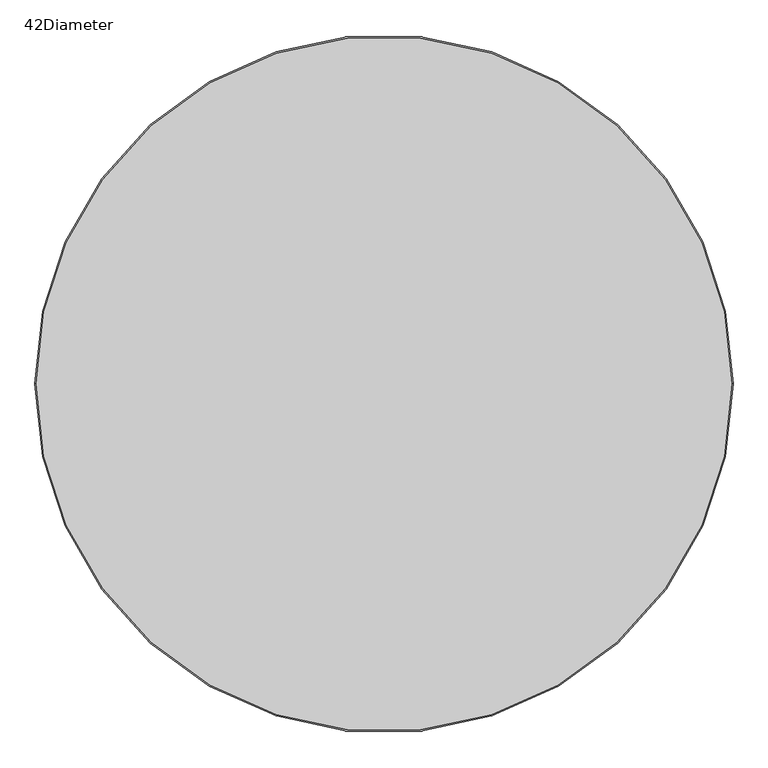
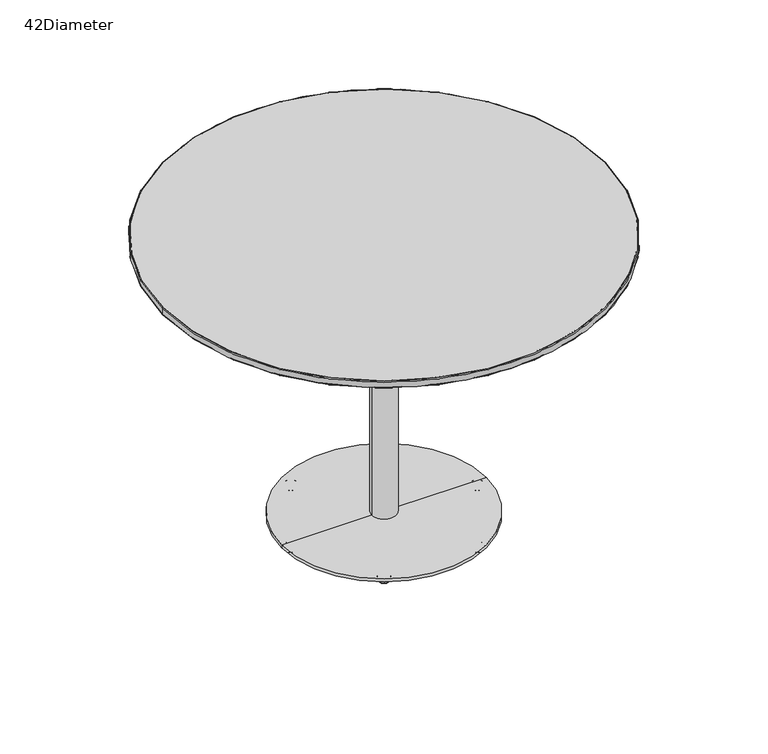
"""IFC4 building model written with IfcOpenShell, lengths in millimetres: furniture geometry, Coalesse_AM_Table_Conference_Montara650_WorkHeight_Round : 42Diameter."""

from ifc_helpers import new_model, si_unit, point, frame, origin, origin_with_axes, origin_2d, place, context, project, spatial, polyline, circle_curve, ellipse_curve, trimmed, segment, composite_curve, outline, extrude, source, transform, mapped, element, save
from ifc_brep_helpers import plane_surface, cylinder_surface, revolved_surface, advanced_brep


def furniture_42diameter_4c75da65(model_context):
    return source(origin(), model_context, "Body", "SolidModel", [
        advanced_brep(
        [(-112.4946772, 194.8464965, 0.0), (-117.6867095, 203.8393602, 0.0), (-107.302645, 185.8536329, 0.0), (-118.0731448, 204.5086859, 0.5718943), (-106.9162096, 185.1843072, 0.5718943), (-119.6988534, 207.3244957, 11.2068005), (-105.290501, 182.3684973, 11.2068005), (-119.4053894, 206.8162011, 11.9999882), (-105.5839651, 182.8767919, 11.9999882), (-112.4946772, 194.8464965, 11.9999882)],
        [
            (0, 1),
            (1, 2, circle_curve(frame((-112.4946772, 194.8464965, 0.0), z_axis=(0.0, 0.0, -1.0), x_axis=(-0.5000000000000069, 0.8660254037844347, 0.0)), 10.3840645)),
            (2, 0),
            (2, 1, circle_curve(frame((-112.4946772, 194.8464965, 0.0), z_axis=(0.0, 0.0, -1.0), x_axis=(-0.5000000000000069, 0.8660254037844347, 0.0)), 10.3840645)),
            (1, 3, circle_curve(frame((-117.6867095, 203.8393602, 0.8081846), z_axis=(0.8660254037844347, 0.5000000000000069, 0.0), x_axis=(-0.5000000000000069, 0.8660254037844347, 0.0)), 0.8081846)),
            (3, 4, circle_curve(frame((-112.4946772, 194.8464965, 0.5718943), z_axis=(0.0, 0.0, -1.0), x_axis=(-0.5000000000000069, 0.8660254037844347, 0.0)), 11.1569353)),
            (4, 2, circle_curve(frame((-107.302645, 185.8536329, 0.8081846), z_axis=(0.866025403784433, 0.5000000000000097, 0.0), x_axis=(0.5000000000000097, -0.866025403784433, 0.0)), 0.8081846)),
            (4, 3, circle_curve(frame((-112.4946772, 194.8464965, 0.5718943), z_axis=(0.0, 0.0, -1.0), x_axis=(-0.5000000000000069, 0.8660254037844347, 0.0)), 11.1569353)),
            (3, 5),
            (5, 6, circle_curve(frame((-112.4946772, 194.8464965, 11.2068005), z_axis=(0.0, 0.0, -1.0), x_axis=(-0.5000000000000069, 0.8660254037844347, 0.0)), 14.4083524)),
            (6, 4),
            (6, 5, circle_curve(frame((-112.4946772, 194.8464965, 11.2068005), z_axis=(0.0, 0.0, -1.0), x_axis=(-0.5000000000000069, 0.8660254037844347, 0.0)), 14.4083524)),
            (5, 7, circle_curve(frame((-119.4053894, 206.8162011, 11.3862424), z_axis=(0.8660254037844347, 0.5000000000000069, 0.0), x_axis=(-0.5000000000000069, 0.8660254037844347, 0.0)), 0.6137458)),
            (7, 8, circle_curve(frame((-112.4946772, 194.8464965, 11.9999882), z_axis=(0.0, 0.0, -1.0), x_axis=(-0.5000000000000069, 0.8660254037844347, 0.0)), 13.8214243)),
            (8, 6, circle_curve(frame((-105.5839651, 182.8767919, 11.3862424), z_axis=(0.866025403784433, 0.5000000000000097, 0.0), x_axis=(0.5000000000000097, -0.866025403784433, 0.0)), 0.6137458)),
            (8, 7, circle_curve(frame((-112.4946772, 194.8464965, 11.9999882), z_axis=(0.0, 0.0, -1.0), x_axis=(-0.5000000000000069, 0.8660254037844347, 0.0)), 13.8214243)),
            (7, 9),
            (9, 8),
        ],
        [
            plane_surface(frame((-112.4946772, 194.8464965, 0.0), z_axis=(0.0, 0.0, -1.0), x_axis=(-0.5000000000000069, 0.8660254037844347, 0.0))),
            revolved_surface(trimmed(ellipse_curve(frame((-117.6867095, 203.8393602, 0.8081846), z_axis=(-0.8660254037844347, -0.5000000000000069, 0.0), x_axis=(-0.5000000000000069, 0.8660254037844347, 0.0)), 0.8081846, 0.8081846), [point((-118.0731448, 204.5086859, 0.5718943))], [point((-117.6867095, 203.8393602, 0.0))], True, "CARTESIAN"), (-112.4946772, 194.8464965, 12.2086845), (0.0, 0.0, -1.0)),
            revolved_surface(polyline([(-119.6988534, 207.3244957, 11.2068005), (-118.0731448, 204.5086859, 0.5718943)]), (-112.4946772, 194.8464965, 12.2086845), (0.0, 0.0, -1.0)),
            revolved_surface(trimmed(ellipse_curve(frame((-119.4053894, 206.8162011, 11.3862424), z_axis=(-0.8660254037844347, -0.5000000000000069, 0.0), x_axis=(-0.5000000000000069, 0.8660254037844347, 0.0)), 0.6137458, 0.6137458), [point((-119.4053894, 206.8162011, 11.9999882))], [point((-119.6988534, 207.3244957, 11.2068005))], True, "CARTESIAN"), (-112.4946772, 194.8464965, 12.2086845), (0.0, 0.0, -1.0)),
            plane_surface(frame((-112.4946772, 194.8464965, 11.9999882), z_axis=(0.0, 0.0, 1.0), x_axis=(-0.5000000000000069, 0.8660254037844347, 0.0))),
        ],
        [
            (0, [[1, 2, 3]]),
            (0, [[-3, 4, -1]]),
            (1, [[-2, 5, 6, 7]]),
            (1, [[-4, -7, 8, -5]]),
            (2, [[-6, 9, 10, 11]]),
            (2, [[-8, -11, 12, -9]]),
            (3, [[-10, 13, 14, 15]]),
            (3, [[-12, -15, 16, -13]]),
            (4, [[-14, 17, 18]]),
            (4, [[-16, -18, -17]]),
        ],
    ),
        advanced_brep(
        [(107.302645, -185.8536329, 0.0), (117.6867095, -203.8393602, 0.0), (112.4946772, -194.8464965, 0.0), (106.9162096, -185.1843072, 0.5718943), (118.0731448, -204.5086859, 0.5718943), (105.290501, -182.3684973, 11.2068005), (119.6988534, -207.3244957, 11.2068005), (105.5839651, -182.8767919, 11.9999882), (119.4053894, -206.8162011, 11.9999882), (112.4946772, -194.8464965, 11.9999882)],
        [
            (0, 1, circle_curve(frame((112.4946772, -194.8464965, 0.0), z_axis=(0.0, 0.0, -1.0), x_axis=(0.5000000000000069, -0.8660254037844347, 0.0)), 10.3840645)),
            (1, 2),
            (2, 0),
            (1, 0, circle_curve(frame((112.4946772, -194.8464965, 0.0), z_axis=(0.0, 0.0, -1.0), x_axis=(0.5000000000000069, -0.8660254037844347, 0.0)), 10.3840645)),
            (3, 4, circle_curve(frame((112.4946772, -194.8464965, 0.5718943), z_axis=(0.0, 0.0, -1.0), x_axis=(0.5000000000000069, -0.8660254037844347, 0.0)), 11.1569353)),
            (4, 1, circle_curve(frame((117.6867095, -203.8393602, 0.8081846), z_axis=(0.8660254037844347, 0.5000000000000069, 0.0), x_axis=(0.5000000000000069, -0.8660254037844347, 0.0)), 0.8081846)),
            (0, 3, circle_curve(frame((107.302645, -185.8536329, 0.8081846), z_axis=(0.8660254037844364, 0.5000000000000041, 0.0), x_axis=(-0.5000000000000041, 0.8660254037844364, 0.0)), 0.8081846)),
            (4, 3, circle_curve(frame((112.4946772, -194.8464965, 0.5718943), z_axis=(0.0, 0.0, -1.0), x_axis=(0.5000000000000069, -0.8660254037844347, 0.0)), 11.1569353)),
            (5, 6, circle_curve(frame((112.4946772, -194.8464965, 11.2068005), z_axis=(0.0, 0.0, -1.0), x_axis=(0.5000000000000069, -0.8660254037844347, 0.0)), 14.4083524)),
            (6, 4),
            (3, 5),
            (6, 5, circle_curve(frame((112.4946772, -194.8464965, 11.2068005), z_axis=(0.0, 0.0, -1.0), x_axis=(0.5000000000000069, -0.8660254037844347, 0.0)), 14.4083524)),
            (7, 8, circle_curve(frame((112.4946772, -194.8464965, 11.9999882), z_axis=(0.0, 0.0, -1.0), x_axis=(0.5000000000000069, -0.8660254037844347, 0.0)), 13.8214243)),
            (8, 6, circle_curve(frame((119.4053894, -206.8162011, 11.3862424), z_axis=(0.8660254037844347, 0.5000000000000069, 0.0), x_axis=(0.5000000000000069, -0.8660254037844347, 0.0)), 0.6137458)),
            (5, 7, circle_curve(frame((105.5839651, -182.8767919, 11.3862424), z_axis=(0.8660254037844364, 0.5000000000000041, 0.0), x_axis=(-0.5000000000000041, 0.8660254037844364, 0.0)), 0.6137458)),
            (8, 7, circle_curve(frame((112.4946772, -194.8464965, 11.9999882), z_axis=(0.0, 0.0, -1.0), x_axis=(0.5000000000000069, -0.8660254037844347, 0.0)), 13.8214243)),
            (9, 8),
            (7, 9),
        ],
        [
            plane_surface(frame((112.4946772, -194.8464965, 0.0), z_axis=(0.0, 0.0, -1.0), x_axis=(0.5000000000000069, -0.8660254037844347, 0.0))),
            revolved_surface(trimmed(ellipse_curve(frame((117.6867095, -203.8393602, 0.8081846), z_axis=(-0.8660254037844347, -0.5000000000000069, 0.0), x_axis=(0.5000000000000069, -0.8660254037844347, 0.0)), 0.8081846, 0.8081846), [point((117.6867095, -203.8393602, 0.0))], [point((118.0731448, -204.5086859, 0.5718943))], True, "CARTESIAN"), (112.4946772, -194.8464965, 12.2086845), (0.0, 0.0, 1.0)),
            revolved_surface(polyline([(118.0731448, -204.5086859, 0.5718943), (119.6988534, -207.3244957, 11.2068005)]), (112.4946772, -194.8464965, 12.2086845), (0.0, 0.0, 1.0)),
            revolved_surface(trimmed(ellipse_curve(frame((119.4053894, -206.8162011, 11.3862424), z_axis=(-0.8660254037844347, -0.5000000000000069, 0.0), x_axis=(0.5000000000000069, -0.8660254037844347, 0.0)), 0.6137458, 0.6137458), [point((119.6988534, -207.3244957, 11.2068005))], [point((119.4053894, -206.8162011, 11.9999882))], True, "CARTESIAN"), (112.4946772, -194.8464965, 12.2086845), (0.0, 0.0, 1.0)),
            plane_surface(frame((112.4946772, -194.8464965, 11.9999882), z_axis=(0.0, 0.0, 1.0), x_axis=(0.5000000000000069, -0.8660254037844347, 0.0))),
        ],
        [
            (0, [[1, 2, 3]]),
            (0, [[4, -3, -2]]),
            (1, [[5, 6, -1, 7]]),
            (1, [[8, -7, -4, -6]]),
            (2, [[9, 10, -5, 11]]),
            (2, [[12, -11, -8, -10]]),
            (3, [[13, 14, -9, 15]]),
            (3, [[16, -15, -12, -14]]),
            (4, [[17, -13, 18]]),
            (4, [[-18, -16, -17]]),
        ],
    ),
        advanced_brep(
        [(107.302645, 185.8536329, 0.0), (117.6867095, 203.8393602, 0.0), (112.4946772, 194.8464965, 0.0), (106.9162096, 185.1843072, 0.5718943), (118.0731448, 204.5086859, 0.5718943), (105.290501, 182.3684973, 11.2068005), (119.6988534, 207.3244957, 11.2068005), (105.5839651, 182.8767919, 11.9999882), (119.4053894, 206.8162011, 11.9999882), (112.4946772, 194.8464965, 11.9999882)],
        [
            (0, 1, circle_curve(frame((112.4946772, 194.8464965, 0.0), z_axis=(0.0, 0.0, -1.0), x_axis=(0.5000000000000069, 0.8660254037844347, 0.0)), 10.3840645)),
            (1, 2),
            (2, 0),
            (1, 0, circle_curve(frame((112.4946772, 194.8464965, 0.0), z_axis=(0.0, 0.0, -1.0), x_axis=(0.5000000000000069, 0.8660254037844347, 0.0)), 10.3840645)),
            (3, 4, circle_curve(frame((112.4946772, 194.8464965, 0.5718943), z_axis=(0.0, 0.0, -1.0), x_axis=(0.5000000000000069, 0.8660254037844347, 0.0)), 11.1569353)),
            (4, 1, circle_curve(frame((117.6867095, 203.8393602, 0.8081846), z_axis=(-0.8660254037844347, 0.5000000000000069, 0.0), x_axis=(0.5000000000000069, 0.8660254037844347, 0.0)), 0.8081846)),
            (0, 3, circle_curve(frame((107.302645, 185.8536329, 0.8081846), z_axis=(-0.866025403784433, 0.5000000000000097, 0.0), x_axis=(-0.5000000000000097, -0.866025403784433, 0.0)), 0.8081846)),
            (4, 3, circle_curve(frame((112.4946772, 194.8464965, 0.5718943), z_axis=(0.0, 0.0, -1.0), x_axis=(0.5000000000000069, 0.8660254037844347, 0.0)), 11.1569353)),
            (5, 6, circle_curve(frame((112.4946772, 194.8464965, 11.2068005), z_axis=(0.0, 0.0, -1.0), x_axis=(0.5000000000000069, 0.8660254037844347, 0.0)), 14.4083524)),
            (6, 4),
            (3, 5),
            (6, 5, circle_curve(frame((112.4946772, 194.8464965, 11.2068005), z_axis=(0.0, 0.0, -1.0), x_axis=(0.5000000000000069, 0.8660254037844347, 0.0)), 14.4083524)),
            (7, 8, circle_curve(frame((112.4946772, 194.8464965, 11.9999882), z_axis=(0.0, 0.0, -1.0), x_axis=(0.5000000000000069, 0.8660254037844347, 0.0)), 13.8214243)),
            (8, 6, circle_curve(frame((119.4053894, 206.8162011, 11.3862424), z_axis=(-0.8660254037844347, 0.5000000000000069, 0.0), x_axis=(0.5000000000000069, 0.8660254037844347, 0.0)), 0.6137458)),
            (5, 7, circle_curve(frame((105.5839651, 182.8767919, 11.3862424), z_axis=(-0.866025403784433, 0.5000000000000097, 0.0), x_axis=(-0.5000000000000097, -0.866025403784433, 0.0)), 0.6137458)),
            (8, 7, circle_curve(frame((112.4946772, 194.8464965, 11.9999882), z_axis=(0.0, 0.0, -1.0), x_axis=(0.5000000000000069, 0.8660254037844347, 0.0)), 13.8214243)),
            (9, 8),
            (7, 9),
        ],
        [
            plane_surface(frame((112.4946772, 194.8464965, 0.0), z_axis=(0.0, 0.0, -1.0), x_axis=(0.5000000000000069, 0.8660254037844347, 0.0))),
            revolved_surface(trimmed(ellipse_curve(frame((117.6867095, 203.8393602, 0.8081846), z_axis=(0.8660254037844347, -0.5000000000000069, 0.0), x_axis=(0.5000000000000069, 0.8660254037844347, 0.0)), 0.8081846, 0.8081846), [point((117.6867095, 203.8393602, 0.0))], [point((118.0731448, 204.5086859, 0.5718943))], True, "CARTESIAN"), (112.4946772, 194.8464965, 12.2086845), (0.0, 0.0, 1.0)),
            revolved_surface(polyline([(118.0731448, 204.5086859, 0.5718943), (119.6988534, 207.3244957, 11.2068005)]), (112.4946772, 194.8464965, 12.2086845), (0.0, 0.0, 1.0)),
            revolved_surface(trimmed(ellipse_curve(frame((119.4053894, 206.8162011, 11.3862424), z_axis=(0.8660254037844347, -0.5000000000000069, 0.0), x_axis=(0.5000000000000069, 0.8660254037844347, 0.0)), 0.6137458, 0.6137458), [point((119.6988534, 207.3244957, 11.2068005))], [point((119.4053894, 206.8162011, 11.9999882))], True, "CARTESIAN"), (112.4946772, 194.8464965, 12.2086845), (0.0, 0.0, 1.0)),
            plane_surface(frame((112.4946772, 194.8464965, 11.9999882), z_axis=(0.0, 0.0, 1.0), x_axis=(0.5000000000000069, 0.8660254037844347, 0.0))),
        ],
        [
            (0, [[1, 2, 3]]),
            (0, [[4, -3, -2]]),
            (1, [[5, 6, -1, 7]]),
            (1, [[8, -7, -4, -6]]),
            (2, [[9, 10, -5, 11]]),
            (2, [[12, -11, -8, -10]]),
            (3, [[13, 14, -9, 15]]),
            (3, [[16, -15, -12, -14]]),
            (4, [[17, -13, 18]]),
            (4, [[-18, -16, -17]]),
        ],
    ),
        advanced_brep(
        [(-112.4946772, -194.8464965, 0.0), (-117.6867095, -203.8393602, 0.0), (-107.302645, -185.8536329, 0.0), (-118.0731448, -204.5086859, 0.5718943), (-106.9162096, -185.1843072, 0.5718943), (-119.6988534, -207.3244957, 11.2068005), (-105.290501, -182.3684973, 11.2068005), (-119.4053894, -206.8162011, 11.9999882), (-105.5839651, -182.8767919, 11.9999882), (-112.4946772, -194.8464965, 11.9999882)],
        [
            (0, 1),
            (1, 2, circle_curve(frame((-112.4946772, -194.8464965, 0.0), z_axis=(0.0, 0.0, -1.0), x_axis=(-0.5000000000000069, -0.8660254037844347, 0.0)), 10.3840645)),
            (2, 0),
            (2, 1, circle_curve(frame((-112.4946772, -194.8464965, 0.0), z_axis=(0.0, 0.0, -1.0), x_axis=(-0.5000000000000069, -0.8660254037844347, 0.0)), 10.3840645)),
            (1, 3, circle_curve(frame((-117.6867095, -203.8393602, 0.8081846), z_axis=(-0.8660254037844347, 0.5000000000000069, 0.0), x_axis=(-0.5000000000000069, -0.8660254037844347, 0.0)), 0.8081846)),
            (3, 4, circle_curve(frame((-112.4946772, -194.8464965, 0.5718943), z_axis=(0.0, 0.0, -1.0), x_axis=(-0.5000000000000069, -0.8660254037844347, 0.0)), 11.1569353)),
            (4, 2, circle_curve(frame((-107.302645, -185.8536329, 0.8081846), z_axis=(-0.8660254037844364, 0.5000000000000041, 0.0), x_axis=(0.5000000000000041, 0.8660254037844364, 0.0)), 0.8081846)),
            (4, 3, circle_curve(frame((-112.4946772, -194.8464965, 0.5718943), z_axis=(0.0, 0.0, -1.0), x_axis=(-0.5000000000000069, -0.8660254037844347, 0.0)), 11.1569353)),
            (3, 5),
            (5, 6, circle_curve(frame((-112.4946772, -194.8464965, 11.2068005), z_axis=(0.0, 0.0, -1.0), x_axis=(-0.5000000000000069, -0.8660254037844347, 0.0)), 14.4083524)),
            (6, 4),
            (6, 5, circle_curve(frame((-112.4946772, -194.8464965, 11.2068005), z_axis=(0.0, 0.0, -1.0), x_axis=(-0.5000000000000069, -0.8660254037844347, 0.0)), 14.4083524)),
            (5, 7, circle_curve(frame((-119.4053894, -206.8162011, 11.3862424), z_axis=(-0.8660254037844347, 0.5000000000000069, 0.0), x_axis=(-0.5000000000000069, -0.8660254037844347, 0.0)), 0.6137458)),
            (7, 8, circle_curve(frame((-112.4946772, -194.8464965, 11.9999882), z_axis=(0.0, 0.0, -1.0), x_axis=(-0.5000000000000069, -0.8660254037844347, 0.0)), 13.8214243)),
            (8, 6, circle_curve(frame((-105.5839651, -182.8767919, 11.3862424), z_axis=(-0.8660254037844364, 0.5000000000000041, 0.0), x_axis=(0.5000000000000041, 0.8660254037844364, 0.0)), 0.6137458)),
            (8, 7, circle_curve(frame((-112.4946772, -194.8464965, 11.9999882), z_axis=(0.0, 0.0, -1.0), x_axis=(-0.5000000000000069, -0.8660254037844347, 0.0)), 13.8214243)),
            (7, 9),
            (9, 8),
        ],
        [
            plane_surface(frame((-112.4946772, -194.8464965, 0.0), z_axis=(0.0, 0.0, -1.0), x_axis=(-0.5000000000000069, -0.8660254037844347, 0.0))),
            revolved_surface(trimmed(ellipse_curve(frame((-117.6867095, -203.8393602, 0.8081846), z_axis=(0.8660254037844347, -0.5000000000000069, 0.0), x_axis=(-0.5000000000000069, -0.8660254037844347, 0.0)), 0.8081846, 0.8081846), [point((-118.0731448, -204.5086859, 0.5718943))], [point((-117.6867095, -203.8393602, 0.0))], True, "CARTESIAN"), (-112.4946772, -194.8464965, 12.2086845), (0.0, 0.0, -1.0)),
            revolved_surface(polyline([(-119.6988534, -207.3244957, 11.2068005), (-118.0731448, -204.5086859, 0.5718943)]), (-112.4946772, -194.8464965, 12.2086845), (0.0, 0.0, -1.0)),
            revolved_surface(trimmed(ellipse_curve(frame((-119.4053894, -206.8162011, 11.3862424), z_axis=(0.8660254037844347, -0.5000000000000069, 0.0), x_axis=(-0.5000000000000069, -0.8660254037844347, 0.0)), 0.6137458, 0.6137458), [point((-119.4053894, -206.8162011, 11.9999882))], [point((-119.6988534, -207.3244957, 11.2068005))], True, "CARTESIAN"), (-112.4946772, -194.8464965, 12.2086845), (0.0, 0.0, -1.0)),
            plane_surface(frame((-112.4946772, -194.8464965, 11.9999882), z_axis=(0.0, 0.0, 1.0), x_axis=(-0.5000000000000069, -0.8660254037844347, 0.0))),
        ],
        [
            (0, [[1, 2, 3]]),
            (0, [[-3, 4, -1]]),
            (1, [[-2, 5, 6, 7]]),
            (1, [[-4, -7, 8, -5]]),
            (2, [[-6, 9, 10, 11]]),
            (2, [[-8, -11, 12, -9]]),
            (3, [[-10, 13, 14, 15]]),
            (3, [[-12, -15, 16, -13]]),
            (4, [[-14, 17, 18]]),
            (4, [[-16, -18, -17]]),
        ],
    ),
        advanced_brep(
        [(214.6052899, 0.0, 0.0), (235.3734189, 0.0, 0.0), (224.9893544, 0.0, 0.0), (213.8324192, 0.0, 0.5718943), (236.1462897, 0.0, 0.5718943), (210.5810021, 0.0, 11.2068005), (239.3977068, 0.0, 11.2068005), (211.1679301, 0.0, 11.9999882), (238.8107788, 0.0, 11.9999882), (224.9893544, 0.0, 11.9999882)],
        [
            (0, 1, circle_curve(frame((224.9893544, 0.0, 0.0), z_axis=(0.0, 0.0, -1.0), x_axis=(1.0, 0.0, 0.0)), 10.3840645)),
            (1, 2),
            (2, 0),
            (1, 0, circle_curve(frame((224.9893544, 0.0, 0.0), z_axis=(0.0, 0.0, -1.0), x_axis=(1.0, 0.0, 0.0)), 10.3840645)),
            (3, 4, circle_curve(frame((224.9893544, 0.0, 0.5718943), z_axis=(0.0, 0.0, -1.0), x_axis=(1.0, 0.0, 0.0)), 11.1569353)),
            (4, 1, circle_curve(frame((235.3734189, 0.0, 0.8081846), z_axis=(0.0, 1.0, 0.0), x_axis=(1.0, 0.0, 0.0)), 0.8081846)),
            (0, 3, circle_curve(frame((214.6052899, 0.0, 0.8081846), z_axis=(0.0, 1.0, 0.0), x_axis=(-1.0, 0.0, 0.0)), 0.8081846)),
            (4, 3, circle_curve(frame((224.9893544, 0.0, 0.5718943), z_axis=(0.0, 0.0, -1.0), x_axis=(1.0, 0.0, 0.0)), 11.1569353)),
            (5, 6, circle_curve(frame((224.9893544, 0.0, 11.2068005), z_axis=(0.0, 0.0, -1.0), x_axis=(1.0, 0.0, 0.0)), 14.4083524)),
            (6, 4),
            (3, 5),
            (6, 5, circle_curve(frame((224.9893544, 0.0, 11.2068005), z_axis=(0.0, 0.0, -1.0), x_axis=(1.0, 0.0, 0.0)), 14.4083524)),
            (7, 8, circle_curve(frame((224.9893544, 0.0, 11.9999882), z_axis=(0.0, 0.0, -1.0), x_axis=(1.0, 0.0, 0.0)), 13.8214243)),
            (8, 6, circle_curve(frame((238.8107788, 0.0, 11.3862424), z_axis=(0.0, 1.0, 0.0), x_axis=(1.0, 0.0, 0.0)), 0.6137458)),
            (5, 7, circle_curve(frame((211.1679301, 0.0, 11.3862424), z_axis=(0.0, 1.0, 0.0), x_axis=(-1.0, 0.0, 0.0)), 0.6137458)),
            (8, 7, circle_curve(frame((224.9893544, 0.0, 11.9999882), z_axis=(0.0, 0.0, -1.0), x_axis=(1.0, 0.0, 0.0)), 13.8214243)),
            (9, 8),
            (7, 9),
        ],
        [
            plane_surface(frame((224.9893544, 0.0, 0.0), z_axis=(0.0, 0.0, -1.0), x_axis=(1.0, 0.0, 0.0))),
            revolved_surface(trimmed(ellipse_curve(frame((235.3734189, 0.0, 0.8081846), z_axis=(0.0, -1.0, 0.0), x_axis=(1.0, 0.0, 0.0)), 0.8081846, 0.8081846), [point((235.3734189, 0.0, 0.0))], [point((236.1462897, 0.0, 0.5718943))], True, "CARTESIAN"), (224.9893544, 0.0, 12.2086845), (0.0, 0.0, 1.0)),
            revolved_surface(polyline([(236.1462897, 0.0, 0.5718943), (239.3977068, 0.0, 11.2068005)]), (224.9893544, 0.0, 12.2086845), (0.0, 0.0, 1.0)),
            revolved_surface(trimmed(ellipse_curve(frame((238.8107788, 0.0, 11.3862424), z_axis=(0.0, -1.0, 0.0), x_axis=(1.0, 0.0, 0.0)), 0.6137458, 0.6137458), [point((239.3977068, 0.0, 11.2068005))], [point((238.8107788, 0.0, 11.9999882))], True, "CARTESIAN"), (224.9893544, 0.0, 12.2086845), (0.0, 0.0, 1.0)),
            plane_surface(frame((224.9893544, 0.0, 11.9999882), z_axis=(0.0, 0.0, 1.0), x_axis=(1.0, 0.0, 0.0))),
        ],
        [
            (0, [[1, 2, 3]]),
            (0, [[4, -3, -2]]),
            (1, [[5, 6, -1, 7]]),
            (1, [[8, -7, -4, -6]]),
            (2, [[9, 10, -5, 11]]),
            (2, [[12, -11, -8, -10]]),
            (3, [[13, 14, -9, 15]]),
            (3, [[16, -15, -12, -14]]),
            (4, [[17, -13, 18]]),
            (4, [[-18, -16, -17]]),
        ],
    ),
        advanced_brep(
        [(-467.868, 0.0, 693.930027), (467.868, 0.0, 693.930027), (-531.368, 0.0, 706.195891), (531.368, 0.0, 706.195891)],
        [
            (0, 1, circle_curve(frame((0.0, 0.0, 693.930027), z_axis=(0.0, 0.0, -1.0), x_axis=(-1.0, 0.0, 0.0)), 467.868)),
            (1, 0, circle_curve(frame((0.0, 0.0, 693.930027), z_axis=(0.0, 0.0, -1.0), x_axis=(1.0, 0.0, 0.0)), 467.868)),
            (2, 3, circle_curve(frame((0.0, 0.0, 706.195891), z_axis=(0.0, 0.0, 1.0), x_axis=(1.0, 0.0, 0.0)), 531.368)),
            (3, 2, circle_curve(frame((0.0, 0.0, 706.195891), z_axis=(0.0, 0.0, 1.0), x_axis=(-1.0, 0.0, 0.0)), 531.368)),
            (2, 0),
            (1, 3),
        ],
        [
            plane_surface(frame((0.0, 0.0, 693.930027), z_axis=(0.0, 0.0, -1.0), x_axis=(0.0, -1.0, 0.0))),
            plane_surface(frame((0.0, 0.0, 706.195891), z_axis=(0.0, 0.0, 1.0), x_axis=(0.0, -1.0, 0.0))),
            revolved_surface(polyline([(467.86799984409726, 0.0, 693.930027), (531.368, 0.0, 706.195891)]), (0.0, 0.0, 603.5551413), (0.0, 0.0, 1.0)),
            revolved_surface(polyline([(-467.86799984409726, 0.0, 693.930027), (-531.368, 0.0, 706.195891)]), (0.0, 0.0, 603.5551413), (0.0, 0.0, 1.0)),
        ],
        [
            (0, [[1, 2]]),
            (1, [[3, 4]]),
            (2, [[-3, 5, -2, 6]]),
            (3, [[-4, -6, -1, -5]]),
        ],
    ),
        extrude(outline(composite_curve([segment(trimmed(circle_curve(origin_2d(), 531.368), [point((-531.368, 0.0))], [point((531.368, 0.0))], False, "CARTESIAN"), True, "CONTINUOUS"), segment(trimmed(circle_curve(origin_2d(), 531.368), [point((531.368, 0.0))], [point((-531.368, 0.0))], False, "CARTESIAN"), True, "CONTINUOUS")], self_intersect=False)), frame((0.0, 0.0, 706.195891), z_axis=(0.0, 0.0, 1.0), x_axis=(1.0, 0.0, 0.0)), (0.0, 0.0, 1.0), 17.704109),
        advanced_brep(
        [(-224.9893544, 0.0, 0.0), (-235.3734189, 0.0, 0.0), (-214.6052899, 0.0, 0.0), (-236.1462897, 0.0, 0.5718943), (-213.8324192, 0.0, 0.5718943), (-239.3977068, 0.0, 11.2068005), (-210.5810021, 0.0, 11.2068005), (-238.8107788, 0.0, 11.9999882), (-211.1679301, 0.0, 11.9999882), (-224.9893544, 0.0, 11.9999882)],
        [
            (0, 1),
            (1, 2, circle_curve(frame((-224.9893544, 0.0, 0.0), z_axis=(0.0, 0.0, -1.0), x_axis=(-1.0, 0.0, 0.0)), 10.3840645)),
            (2, 0),
            (2, 1, circle_curve(frame((-224.9893544, 0.0, 0.0), z_axis=(0.0, 0.0, -1.0), x_axis=(-1.0, 0.0, 0.0)), 10.3840645)),
            (1, 3, circle_curve(frame((-235.3734189, 0.0, 0.8081846), z_axis=(0.0, 1.0, 0.0), x_axis=(-1.0, 0.0, 0.0)), 0.8081846)),
            (3, 4, circle_curve(frame((-224.9893544, 0.0, 0.5718943), z_axis=(0.0, 0.0, -1.0), x_axis=(-1.0, 0.0, 0.0)), 11.1569353)),
            (4, 2, circle_curve(frame((-214.6052899, 0.0, 0.8081846), z_axis=(0.0, 1.0, 0.0), x_axis=(1.0, 0.0, 0.0)), 0.8081846)),
            (4, 3, circle_curve(frame((-224.9893544, 0.0, 0.5718943), z_axis=(0.0, 0.0, -1.0), x_axis=(-1.0, 0.0, 0.0)), 11.1569353)),
            (3, 5),
            (5, 6, circle_curve(frame((-224.9893544, 0.0, 11.2068005), z_axis=(0.0, 0.0, -1.0), x_axis=(-1.0, 0.0, 0.0)), 14.4083524)),
            (6, 4),
            (6, 5, circle_curve(frame((-224.9893544, 0.0, 11.2068005), z_axis=(0.0, 0.0, -1.0), x_axis=(-1.0, 0.0, 0.0)), 14.4083524)),
            (5, 7, circle_curve(frame((-238.8107788, 0.0, 11.3862424), z_axis=(0.0, 1.0, 0.0), x_axis=(-1.0, 0.0, 0.0)), 0.6137458)),
            (7, 8, circle_curve(frame((-224.9893544, 0.0, 11.9999882), z_axis=(0.0, 0.0, -1.0), x_axis=(-1.0, 0.0, 0.0)), 13.8214243)),
            (8, 6, circle_curve(frame((-211.1679301, 0.0, 11.3862424), z_axis=(0.0, 1.0, 0.0), x_axis=(1.0, 0.0, 0.0)), 0.6137458)),
            (8, 7, circle_curve(frame((-224.9893544, 0.0, 11.9999882), z_axis=(0.0, 0.0, -1.0), x_axis=(-1.0, 0.0, 0.0)), 13.8214243)),
            (7, 9),
            (9, 8),
        ],
        [
            plane_surface(frame((-224.9893544, 0.0, 0.0), z_axis=(0.0, 0.0, -1.0), x_axis=(-1.0, 0.0, 0.0))),
            revolved_surface(trimmed(ellipse_curve(frame((-235.3734189, 0.0, 0.8081846), z_axis=(0.0, -1.0, 0.0), x_axis=(-1.0, 0.0, 0.0)), 0.8081846, 0.8081846), [point((-236.1462897, 0.0, 0.5718943))], [point((-235.3734189, 0.0, 0.0))], True, "CARTESIAN"), (-224.9893544, 0.0, 12.2086845), (0.0, 0.0, -1.0)),
            revolved_surface(polyline([(-239.3977068, 0.0, 11.2068005), (-236.1462897, 0.0, 0.5718943)]), (-224.9893544, 0.0, 12.2086845), (0.0, 0.0, -1.0)),
            revolved_surface(trimmed(ellipse_curve(frame((-238.8107788, 0.0, 11.3862424), z_axis=(0.0, -1.0, 0.0), x_axis=(-1.0, 0.0, 0.0)), 0.6137458, 0.6137458), [point((-238.8107788, 0.0, 11.9999882))], [point((-239.3977068, 0.0, 11.2068005))], True, "CARTESIAN"), (-224.9893544, 0.0, 12.2086845), (0.0, 0.0, -1.0)),
            plane_surface(frame((-224.9893544, 0.0, 11.9999882), z_axis=(0.0, 0.0, 1.0), x_axis=(-1.0, 0.0, 0.0))),
        ],
        [
            (0, [[1, 2, 3]]),
            (0, [[-3, 4, -1]]),
            (1, [[-2, 5, 6, 7]]),
            (1, [[-4, -7, 8, -5]]),
            (2, [[-6, 9, 10, 11]]),
            (2, [[-8, -11, 12, -9]]),
            (3, [[-10, 13, 14, 15]]),
            (3, [[-12, -15, 16, -13]]),
            (4, [[-14, 17, 18]]),
            (4, [[-16, -18, -17]]),
        ],
    ),
        advanced_brep(
        [(533.4438665, 0.0, 708.1278467), (-533.4438665, 0.0, 708.1278467), (-531.368, 0.0, 706.195891), (531.368, 0.0, 706.195891), (533.4438665, 0.0, 721.8999283), (-533.4438665, 0.0, 721.8999283), (531.368, 0.0, 723.9), (-531.368, 0.0, 723.9)],
        [
            (0, 1, circle_curve(frame((0.0, 0.0, 708.1278467), z_axis=(0.0, 0.0, -1.0), x_axis=(-1.0, 0.0, 0.0)), 533.4438665)),
            (1, 2, circle_curve(frame((-531.5069224, 0.0, 708.1278467), z_axis=(0.0, -1.0, 0.0), x_axis=(1.0, 0.0, 0.0)), 1.9369441)),
            (2, 3, circle_curve(frame((0.0, 0.0, 706.195891), z_axis=(0.0, 0.0, 1.0), x_axis=(-1.0, 0.0, 0.0)), 531.368)),
            (3, 0, circle_curve(frame((531.5069224, 0.0, 708.1278467), z_axis=(0.0, -1.0, 0.0), x_axis=(-1.0, 0.0, 0.0)), 1.9369441)),
            (4, 5, circle_curve(frame((0.0, 0.0, 721.8999283), z_axis=(0.0, 0.0, -1.0), x_axis=(-1.0, 0.0, 0.0)), 533.4438665)),
            (5, 1),
            (0, 4),
            (6, 7, circle_curve(frame((0.0, 0.0, 723.9), z_axis=(0.0, 0.0, -1.0), x_axis=(-1.0, 0.0, 0.0)), 531.368)),
            (7, 5, circle_curve(frame((-531.4424111, 0.0, 721.8999283), z_axis=(0.0, -1.0, 0.0), x_axis=(1.0, 0.0, 0.0)), 2.0014554)),
            (4, 6, circle_curve(frame((531.4424111, 0.0, 721.8999283), z_axis=(0.0, -1.0, 0.0), x_axis=(-1.0, 0.0, 0.0)), 2.0014554)),
            (2, 7),
            (6, 3),
            (1, 0, circle_curve(frame((0.0, 0.0, 708.1278467), z_axis=(0.0, 0.0, -1.0), x_axis=(1.0, 0.0, 0.0)), 533.4438665)),
            (3, 2, circle_curve(frame((0.0, 0.0, 706.195891), z_axis=(0.0, 0.0, 1.0), x_axis=(1.0, 0.0, 0.0)), 531.368)),
            (5, 4, circle_curve(frame((0.0, 0.0, 721.8999283), z_axis=(0.0, 0.0, -1.0), x_axis=(1.0, 0.0, 0.0)), 533.4438665)),
            (7, 6, circle_curve(frame((0.0, 0.0, 723.9), z_axis=(0.0, 0.0, -1.0), x_axis=(1.0, 0.0, 0.0)), 531.368)),
        ],
        [
            revolved_surface(trimmed(ellipse_curve(frame((-531.5069224, 0.0, 708.1278467), z_axis=(0.0, 1.0, 0.0), x_axis=(1.0, 0.0, 0.0)), 1.9369441, 1.9369441), [point((-531.368, 0.0, 706.195891))], [point((-533.4438665, 0.0, 708.1278467))], True, "CARTESIAN"), (0.0, 0.0, 0.0), (0.0, 0.0, 1.0)),
            cylinder_surface(frame((0.0, 0.0, 0.0), z_axis=(0.0, 0.0, 1.0), x_axis=(-1.0, 0.0, 0.0)), 533.4438665),
            revolved_surface(trimmed(ellipse_curve(frame((-531.4424111, 0.0, 721.8999283), z_axis=(0.0, 1.0, 0.0), x_axis=(1.0, 0.0, 0.0)), 2.0014554, 2.0014554), [point((-533.4438665, 0.0, 721.8999283))], [point((-531.368, 0.0, 723.9))], True, "CARTESIAN"), (0.0, 0.0, 0.0), (0.0, 0.0, 1.0)),
            revolved_surface(polyline([(-531.368, 0.0, 723.9), (-531.368, 0.0, 706.195891)]), (0.0, 0.0, 0.0), (0.0, 0.0, 1.0)),
            revolved_surface(trimmed(ellipse_curve(frame((531.5069224, 0.0, 708.1278467), z_axis=(0.0, -1.0, 0.0), x_axis=(-1.0, 0.0, 0.0)), 1.9369441, 1.9369441), [point((531.368, 0.0, 706.195891))], [point((533.4438665, 0.0, 708.1278467))], True, "CARTESIAN"), (0.0, 0.0, 0.0), (0.0, 0.0, 1.0)),
            cylinder_surface(origin_with_axes(), 533.4438665),
            revolved_surface(trimmed(ellipse_curve(frame((531.4424111, 0.0, 721.8999283), z_axis=(0.0, -1.0, 0.0), x_axis=(-1.0, 0.0, 0.0)), 2.0014554, 2.0014554), [point((533.4438665, 0.0, 721.8999283))], [point((531.368, 0.0, 723.9))], True, "CARTESIAN"), (0.0, 0.0, 0.0), (0.0, 0.0, 1.0)),
            revolved_surface(polyline([(531.368, 0.0, 723.9), (531.368, 0.0, 706.195891)]), (0.0, 0.0, 0.0), (0.0, 0.0, 1.0)),
        ],
        [
            (0, [[1, 2, 3, 4]]),
            (1, [[5, 6, -1, 7]]),
            (2, [[8, 9, -5, 10]]),
            (3, [[-3, 11, -8, 12]]),
            (4, [[13, -4, 14, -2]]),
            (5, [[15, -7, -13, -6]]),
            (6, [[16, -10, -15, -9]]),
            (7, [[-14, -12, -16, -11]]),
        ],
    ),
        advanced_brep(
        [(131.6004101, 0.0, 690.755027), (-131.6004101, 0.0, 690.755027), (-176.1626132, 0.0, 690.755027), (176.1626132, 0.0, 690.755027), (121.0488662, 0.0, 689.6460151), (-121.0488662, 0.0, 689.6460151), (48.7461809, 0.0, 674.9837029), (-48.7461809, 0.0, 674.9837029), (37.412985, 0.0, 674.9837029), (-37.412985, 0.0, 674.9837029), (29.5495828, 0.0, 19.9999965), (-29.5495828, 0.0, 19.9999965), (-29.5495828, 0.0, 686.7852036), (29.5495828, 0.0, 686.7852036), (246.3799842, 0.0, 19.9999965), (-246.3799842, 0.0, 19.9999965), (246.3799842, 0.0, 11.9999882), (-246.3799842, 0.0, 11.9999882), (0.0, 0.0, 11.9999882), (176.1626132, 0.0, 693.930027), (-176.1626132, 0.0, 693.930027), (0.0, 0.0, 693.930027), (33.3511087, 0.0, 676.4383874), (-33.3511087, 0.0, 676.4383874), (31.712334, 0.0, 686.7852036), (-31.712334, 0.0, 686.7852036)],
        [
            (0, 1, circle_curve(frame((0.0, 0.0, 690.755027), z_axis=(0.0, 0.0, 1.0), x_axis=(-1.0, 0.0, 0.0)), 131.6004101)),
            (1, 2),
            (2, 3, circle_curve(frame((0.0, 0.0, 690.755027), z_axis=(0.0, 0.0, -1.0), x_axis=(-1.0, 0.0, 0.0)), 176.1626132)),
            (3, 0),
            (1, 0, circle_curve(frame((0.0, 0.0, 690.755027), z_axis=(0.0, 0.0, 1.0), x_axis=(-1.0, 0.0, 0.0)), 131.6004101)),
            (3, 2, circle_curve(frame((0.0, 0.0, 690.755027), z_axis=(0.0, 0.0, -1.0), x_axis=(-1.0, 0.0, 0.0)), 176.1626132)),
            (4, 5, circle_curve(frame((0.0, 0.0, 689.6460151), z_axis=(0.0, 0.0, 1.0), x_axis=(-1.0, 0.0, 0.0)), 121.0488662)),
            (5, 1),
            (0, 4),
            (5, 4, circle_curve(frame((0.0, 0.0, 689.6460151), z_axis=(0.0, 0.0, 1.0), x_axis=(-1.0, 0.0, 0.0)), 121.0488662)),
            (6, 7, circle_curve(frame((0.0, 0.0, 674.9837029), z_axis=(0.0, 0.0, 1.0), x_axis=(-1.0, 0.0, 0.0)), 48.7461809)),
            (7, 5),
            (4, 6),
            (7, 6, circle_curve(frame((0.0, 0.0, 674.9837029), z_axis=(0.0, 0.0, 1.0), x_axis=(-1.0, 0.0, 0.0)), 48.7461809)),
            (8, 9, circle_curve(frame((0.0, 0.0, 674.9837029), z_axis=(0.0, 0.0, 1.0), x_axis=(-1.0, 0.0, 0.0)), 37.412985)),
            (9, 7),
            (6, 8),
            (9, 8, circle_curve(frame((0.0, 0.0, 674.9837029), z_axis=(0.0, 0.0, 1.0), x_axis=(-1.0, 0.0, 0.0)), 37.412985)),
            (10, 11, circle_curve(frame((0.0, 0.0, 19.9999965), z_axis=(0.0, 0.0, 1.0), x_axis=(-1.0, 0.0, 0.0)), 29.5495828)),
            (11, 12),
            (12, 13, circle_curve(frame((0.0, 0.0, 686.7852036), z_axis=(0.0, 0.0, -1.0), x_axis=(-1.0, 0.0, 0.0)), 29.5495828)),
            (13, 10),
            (11, 10, circle_curve(frame((0.0, 0.0, 19.9999965), z_axis=(0.0, 0.0, 1.0), x_axis=(-1.0, 0.0, 0.0)), 29.5495828)),
            (13, 12, circle_curve(frame((0.0, 0.0, 686.7852036), z_axis=(0.0, 0.0, -1.0), x_axis=(-1.0, 0.0, 0.0)), 29.5495828)),
            (14, 15, circle_curve(frame((0.0, 0.0, 19.9999965), z_axis=(0.0, 0.0, 1.0), x_axis=(-1.0, 0.0, 0.0)), 246.3799842)),
            (15, 11),
            (10, 14),
            (15, 14, circle_curve(frame((0.0, 0.0, 19.9999965), z_axis=(0.0, 0.0, 1.0), x_axis=(-1.0, 0.0, 0.0)), 246.3799842)),
            (16, 17, circle_curve(frame((0.0, 0.0, 11.9999882), z_axis=(0.0, 0.0, 1.0), x_axis=(-1.0, 0.0, 0.0)), 246.3799842)),
            (17, 15),
            (14, 16),
            (17, 16, circle_curve(frame((0.0, 0.0, 11.9999882), z_axis=(0.0, 0.0, 1.0), x_axis=(-1.0, 0.0, 0.0)), 246.3799842)),
            (18, 17),
            (16, 18),
            (19, 20, circle_curve(frame((0.0, 0.0, 693.930027), z_axis=(0.0, 0.0, 1.0), x_axis=(-1.0, 0.0, 0.0)), 176.1626132)),
            (20, 21),
            (21, 19),
            (20, 19, circle_curve(frame((0.0, 0.0, 693.930027), z_axis=(0.0, 0.0, 1.0), x_axis=(-1.0, 0.0, 0.0)), 176.1626132)),
            (2, 20),
            (19, 3),
            (22, 23, circle_curve(frame((0.0, 0.0, 676.4383874), z_axis=(0.0, 0.0, 1.0), x_axis=(-1.0, 0.0, 0.0)), 33.3511087)),
            (23, 9),
            (8, 22),
            (23, 22, circle_curve(frame((0.0, 0.0, 676.4383874), z_axis=(0.0, 0.0, 1.0), x_axis=(-1.0, 0.0, 0.0)), 33.3511087)),
            (24, 25, circle_curve(frame((0.0, 0.0, 686.7852036), z_axis=(0.0, 0.0, 1.0), x_axis=(-1.0, 0.0, 0.0)), 31.712334)),
            (25, 23),
            (22, 24),
            (25, 24, circle_curve(frame((0.0, 0.0, 686.7852036), z_axis=(0.0, 0.0, 1.0), x_axis=(-1.0, 0.0, 0.0)), 31.712334)),
            (12, 25),
            (24, 13),
        ],
        [
            plane_surface(frame((0.0, 0.0, 690.755027), z_axis=(0.0, 0.0, -1.0), x_axis=(-1.0, 0.0, 0.0))),
            revolved_surface(polyline([(-131.6004101, 0.0, 690.755027), (-121.0488662, 0.0, 689.6460151)]), (0.0, 0.0, 439.0999965), (0.0, 0.0, -1.0)),
            revolved_surface(polyline([(-121.0488662, 0.0, 689.6460151), (-48.7461809, 0.0, 674.9837029)]), (0.0, 0.0, 439.0999965), (0.0, 0.0, -1.0)),
            plane_surface(frame((0.0, 0.0, 674.9837029), z_axis=(0.0, 0.0, -1.0), x_axis=(-1.0, 0.0, 0.0))),
            cylinder_surface(frame((0.0, 0.0, 439.0999965), z_axis=(0.0, 0.0, -1.0), x_axis=(-1.0, 0.0, 0.0)), 29.5495828),
            plane_surface(frame((0.0, 0.0, 19.9999965), z_axis=(0.0, 0.0, 1.0), x_axis=(-1.0, 0.0, 0.0))),
            cylinder_surface(frame((0.0, 0.0, 439.0999965), z_axis=(0.0, 0.0, -1.0), x_axis=(-1.0, 0.0, 0.0)), 246.3799842),
            plane_surface(frame((0.0, 0.0, 11.9999882), z_axis=(0.0, 0.0, -1.0), x_axis=(-1.0, 0.0, 0.0))),
            plane_surface(frame((0.0, 0.0, 693.930027), z_axis=(0.0, 0.0, 1.0), x_axis=(-1.0, 0.0, 0.0))),
            cylinder_surface(frame((0.0, 0.0, 439.0999965), z_axis=(0.0, 0.0, -1.0), x_axis=(-1.0, 0.0, 0.0)), 176.1626132),
            revolved_surface(polyline([(-37.412985, 0.0, 674.9837029), (-33.3511087, 0.0, 676.4383874)]), (0.0, 0.0, 439.0999965), (0.0, 0.0, -1.0)),
            revolved_surface(polyline([(-33.3511087, 0.0, 676.4383874), (-31.712334, 0.0, 686.7852036)]), (0.0, 0.0, 439.0999965), (0.0, 0.0, -1.0)),
            plane_surface(frame((0.0, 0.0, 686.7852036), z_axis=(0.0, 0.0, -1.0), x_axis=(-1.0, 0.0, 0.0))),
        ],
        [
            (0, [[1, 2, 3, 4]]),
            (0, [[5, -4, 6, -2]]),
            (1, [[7, 8, -1, 9]]),
            (1, [[10, -9, -5, -8]]),
            (2, [[11, 12, -7, 13]]),
            (2, [[14, -13, -10, -12]]),
            (3, [[15, 16, -11, 17]]),
            (3, [[18, -17, -14, -16]]),
            (4, [[19, 20, 21, 22]]),
            (4, [[23, -22, 24, -20]]),
            (5, [[25, 26, -19, 27]]),
            (5, [[28, -27, -23, -26]]),
            (6, [[29, 30, -25, 31]]),
            (6, [[32, -31, -28, -30]]),
            (7, [[33, -29, 34]]),
            (7, [[-34, -32, -33]]),
            (8, [[35, 36, 37]]),
            (8, [[38, -37, -36]]),
            (9, [[-3, 39, -35, 40]]),
            (9, [[-6, -40, -38, -39]]),
            (10, [[41, 42, -15, 43]]),
            (10, [[44, -43, -18, -42]]),
            (11, [[45, 46, -41, 47]]),
            (11, [[48, -47, -44, -46]]),
            (12, [[-21, 49, -45, 50]]),
            (12, [[-24, -50, -48, -49]]),
        ],
    ),
    ])


if __name__ == "__main__":
    model = new_model("IFC4")
    model_context = context("Model", 3, world=origin())
    ifc_project = project(units=[si_unit("LENGTHUNIT", "METRE", prefix="MILLI")], contexts=[model_context])
    site = spatial("IfcSite", under=ifc_project)
    building = spatial("IfcBuilding", under=site)
    placement = place(None, origin())
    furniture_42diameter_shape = furniture_42diameter_4c75da65(model_context)
    element("IfcFurniture", 1, ObjectType="Coalesse_AM_Table_Conference_Montara650_WorkHeight_Round : 42Diameter", at=placement, inside=building, context=model_context, shape_type="MappedRepresentation", body=[
        mapped(furniture_42diameter_shape, transform((0.0, 0.0, 0.0), x_axis=(1.0, 0.0, 0.0), y_axis=(0.0, 1.0, 0.0), z_axis=(0.0, 0.0, 1.0))),
    ])
    save(model, "model.ifc")
